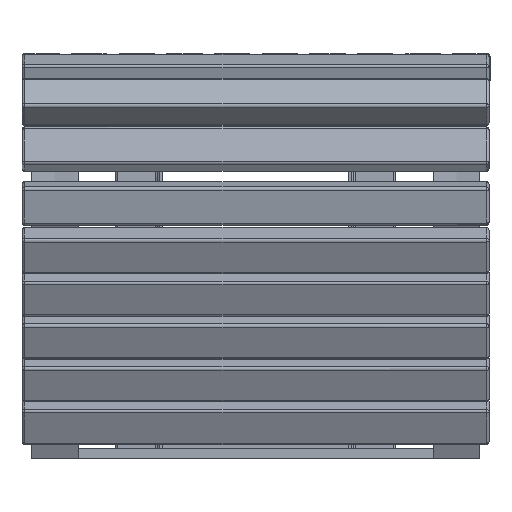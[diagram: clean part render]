
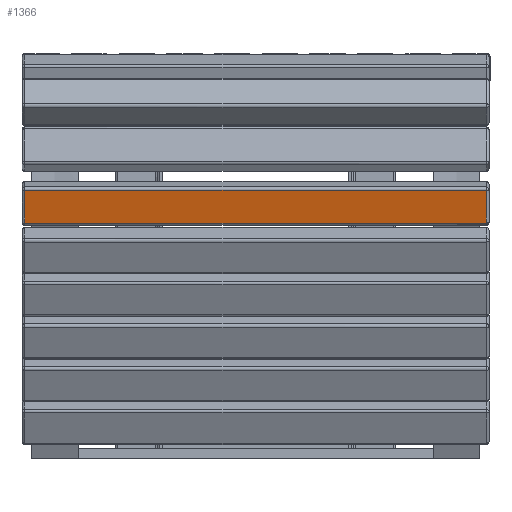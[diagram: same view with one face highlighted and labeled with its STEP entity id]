
A CAD part, left-side view. The second image highlights one B-rep face of the part: STEP entity #1366.
In plain terms, the highlighted planar face has unit normal (-0.975, 0, -0.222).
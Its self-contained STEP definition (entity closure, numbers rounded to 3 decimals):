
#1366=ADVANCED_FACE('',(#2300),#12428,.T.);
#2300=FACE_OUTER_BOUND('',#3356,.T.);
#3356=EDGE_LOOP('',(#6869,#6870,#6871,#6872));
#6869=ORIENTED_EDGE('',*,*,#8998,.F.);
#6870=ORIENTED_EDGE('',*,*,#9014,.F.);
#6871=ORIENTED_EDGE('',*,*,#9010,.F.);
#6872=ORIENTED_EDGE('',*,*,#9005,.F.);
#8998=EDGE_CURVE('',#12143,#12139,#10958,.T.);
#9005=EDGE_CURVE('',#12139,#12129,#10965,.T.);
#9010=EDGE_CURVE('',#12129,#12135,#10970,.T.);
#9014=EDGE_CURVE('',#12135,#12143,#9592,.T.);
#9592=B_SPLINE_CURVE_WITH_KNOTS('',1,(#29219,#29220),.UNSPECIFIED.,.F.,
 .F.,(2,2),(-12.2,37.2),.UNSPECIFIED.);
#10958=(
BOUNDED_CURVE()
B_SPLINE_CURVE(1,(#29187,#29188),.UNSPECIFIED.,.F.,.F.)
B_SPLINE_CURVE_WITH_KNOTS((2,2),(-9.5,2.5),
 .UNSPECIFIED.)
CURVE()
GEOMETRIC_REPRESENTATION_ITEM()
RATIONAL_B_SPLINE_CURVE((1.,1.))
REPRESENTATION_ITEM('')
);
#10965=(
BOUNDED_CURVE()
B_SPLINE_CURVE(1,(#29201,#29202),.UNSPECIFIED.,.F.,.F.)
B_SPLINE_CURVE_WITH_KNOTS((2,2),(-124.,40.667),.UNSPECIFIED.)
CURVE()
GEOMETRIC_REPRESENTATION_ITEM()
RATIONAL_B_SPLINE_CURVE((1.,1.))
REPRESENTATION_ITEM('')
);
#10970=(
BOUNDED_CURVE()
B_SPLINE_CURVE(1,(#29211,#29212),.UNSPECIFIED.,.F.,.F.)
B_SPLINE_CURVE_WITH_KNOTS((2,2),(-9.5,2.5),
 .UNSPECIFIED.)
CURVE()
GEOMETRIC_REPRESENTATION_ITEM()
RATIONAL_B_SPLINE_CURVE((1.,1.))
REPRESENTATION_ITEM('')
);
#12129=VERTEX_POINT('',#29075);
#12135=VERTEX_POINT('',#29081);
#12139=VERTEX_POINT('',#29085);
#12143=VERTEX_POINT('',#29089);
#12428=PLANE('',#13358);
#13358=AXIS2_PLACEMENT_3D('',#29016,#13562,$);
#13562=DIRECTION('',(-0.975,0.,-0.222));
#29016=CARTESIAN_POINT('',(8.067,3.99,251.698));
#29075=CARTESIAN_POINT('',(8.065,498.,251.708));
#29081=CARTESIAN_POINT('',(0.075,498.,286.81));
#29085=CARTESIAN_POINT('',(8.065,4.,251.708));
#29089=CARTESIAN_POINT('',(0.075,4.,286.81));
#29187=CARTESIAN_POINT('',(0.075,4.,286.81));
#29188=CARTESIAN_POINT('',(8.065,4.,251.708));
#29201=CARTESIAN_POINT('',(8.065,4.,251.708));
#29202=CARTESIAN_POINT('',(8.065,498.,251.708));
#29211=CARTESIAN_POINT('',(8.065,498.,251.708));
#29212=CARTESIAN_POINT('',(0.075,498.,286.81));
#29219=CARTESIAN_POINT('',(0.075,498.,286.81));
#29220=CARTESIAN_POINT('',(0.075,4.,286.81));
